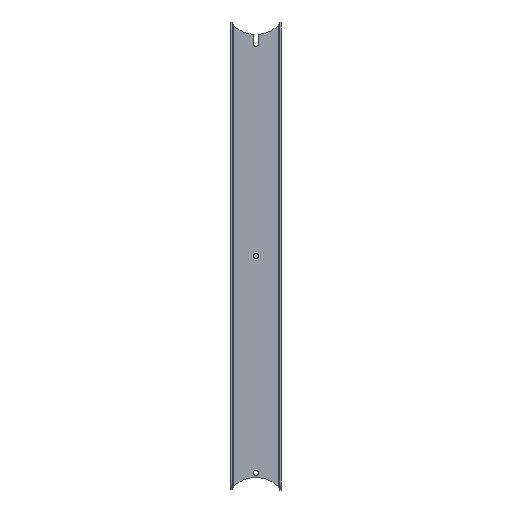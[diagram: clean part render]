
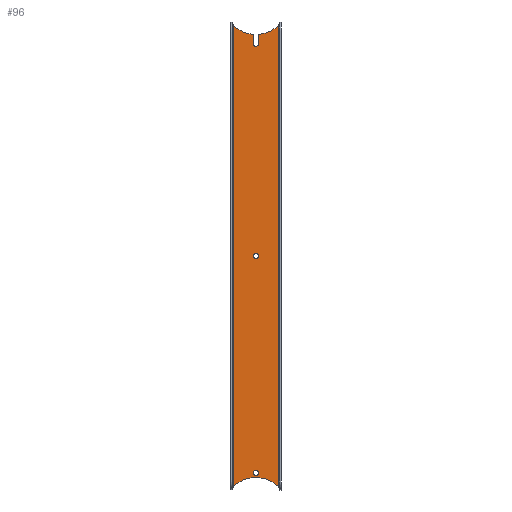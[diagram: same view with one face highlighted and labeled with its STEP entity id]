
A CAD part, left-side view. The second image highlights one B-rep face of the part: STEP entity #96.
In plain terms, the highlighted planar face has unit normal (-1, 0, 0).
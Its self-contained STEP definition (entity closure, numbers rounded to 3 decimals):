
#96 = ADVANCED_FACE( '', ( #206, #207, #208 ), #209, .T. );
#206 = FACE_BOUND( '', #371, .T. );
#207 = FACE_OUTER_BOUND( '', #372, .T. );
#208 = FACE_BOUND( '', #373, .T. );
#209 = PLANE( '', #374 );
#371 = EDGE_LOOP( '', ( #617 ) );
#372 = EDGE_LOOP( '', ( #618, #619, #620, #621, #622, #623, #624, #625 ) );
#373 = EDGE_LOOP( '', ( #626 ) );
#374 = AXIS2_PLACEMENT_3D( '', #627, #628, #629 );
#617 = ORIENTED_EDGE( '', *, *, #774, .T. );
#618 = ORIENTED_EDGE( '', *, *, #842, .F. );
#619 = ORIENTED_EDGE( '', *, *, #843, .F. );
#620 = ORIENTED_EDGE( '', *, *, #844, .F. );
#621 = ORIENTED_EDGE( '', *, *, #820, .F. );
#622 = ORIENTED_EDGE( '', *, *, #816, .F. );
#623 = ORIENTED_EDGE( '', *, *, #836, .F. );
#624 = ORIENTED_EDGE( '', *, *, #789, .F. );
#625 = ORIENTED_EDGE( '', *, *, #845, .F. );
#626 = ORIENTED_EDGE( '', *, *, #846, .T. );
#627 = CARTESIAN_POINT( '', ( -1.5, 25., 25. ) );
#628 = DIRECTION( '', ( -1., 0., 0. ) );
#629 = DIRECTION( '', ( 0., -1., 0. ) );
#774 = EDGE_CURVE( '', #905, #905, #906, .F. );
#789 = EDGE_CURVE( '', #930, #925, #932, .T. );
#816 = EDGE_CURVE( '', #937, #884, #971, .T. );
#820 = EDGE_CURVE( '', #884, #976, #977, .T. );
#836 = EDGE_CURVE( '', #925, #937, #999, .T. );
#842 = EDGE_CURVE( '', #1007, #1008, #1009, .F. );
#843 = EDGE_CURVE( '', #1010, #1007, #1011, .T. );
#844 = EDGE_CURVE( '', #976, #1010, #1012, .T. );
#845 = EDGE_CURVE( '', #1008, #930, #1013, .T. );
#846 = EDGE_CURVE( '', #1014, #1014, #1015, .F. );
#884 = VERTEX_POINT( '', #1057 );
#905 = VERTEX_POINT( '', #1101 );
#906 = CIRCLE( '', #1102, 2.75 );
#925 = VERTEX_POINT( '', #1137 );
#930 = VERTEX_POINT( '', #1144 );
#932 = LINE( '', #1147, #1148 );
#937 = VERTEX_POINT( '', #1163 );
#971 = LINE( '', #1253, #1254 );
#976 = VERTEX_POINT( '', #1265 );
#977 = CIRCLE( '', #1266, 35. );
#999 = CIRCLE( '', #1296, 35. );
#1007 = VERTEX_POINT( '', #1306 );
#1008 = VERTEX_POINT( '', #1307 );
#1009 = LINE( '', #1308, #1309 );
#1010 = VERTEX_POINT( '', #1310 );
#1011 = CIRCLE( '', #1311, 35. );
#1012 = LINE( '', #1312, #1313 );
#1013 = CIRCLE( '', #1314, 2.75 );
#1014 = VERTEX_POINT( '', #1315 );
#1015 = CIRCLE( '', #1316, 2.75 );
#1057 = CARTESIAN_POINT( '', ( -1.5, 0.33, 49.827 ) );
#1101 = CARTESIAN_POINT( '', ( -1.5, 22.25, 300. ) );
#1102 = AXIS2_PLACEMENT_3D( '', #1399, #1400, #1401 );
#1137 = CARTESIAN_POINT( '', ( -1.5, 22.25, 540.108 ) );
#1144 = CARTESIAN_POINT( '', ( -1.5, 22.25, 530. ) );
#1147 = CARTESIAN_POINT( '', ( -1.5, 22.25, 25. ) );
#1148 = VECTOR( '', #1411, 1000. );
#1163 = CARTESIAN_POINT( '', ( -1.5, 0.33, 550.173 ) );
#1253 = CARTESIAN_POINT( '', ( -1.5, 0.33, 550.173 ) );
#1254 = VECTOR( '', #1437, 1000. );
#1265 = CARTESIAN_POINT( '', ( -1.5, 49.33, 50.161 ) );
#1266 = AXIS2_PLACEMENT_3D( '', #1439, #1440, #1441 );
#1296 = AXIS2_PLACEMENT_3D( '', #1459, #1460, #1461 );
#1306 = CARTESIAN_POINT( '', ( -1.5, 27.75, 540.108 ) );
#1307 = CARTESIAN_POINT( '', ( -1.5, 27.75, 530. ) );
#1308 = CARTESIAN_POINT( '', ( -1.5, 27.75, 25. ) );
#1309 = VECTOR( '', #1467, 1000. );
#1310 = CARTESIAN_POINT( '', ( -1.5, 49.33, 549.839 ) );
#1311 = AXIS2_PLACEMENT_3D( '', #1468, #1469, #1470 );
#1312 = CARTESIAN_POINT( '', ( -1.5, 49.33, 50.161 ) );
#1313 = VECTOR( '', #1471, 1000. );
#1314 = AXIS2_PLACEMENT_3D( '', #1472, #1473, #1474 );
#1315 = CARTESIAN_POINT( '', ( -1.5, 22.25, 65. ) );
#1316 = AXIS2_PLACEMENT_3D( '', #1475, #1476, #1477 );
#1399 = CARTESIAN_POINT( '', ( -1.5, 25., 300. ) );
#1400 = DIRECTION( '', ( -1., 0., 0. ) );
#1401 = DIRECTION( '', ( 0., -1., 0. ) );
#1411 = DIRECTION( '', ( 0., 0., 1. ) );
#1437 = DIRECTION( '', ( 0., 0., -1. ) );
#1439 = CARTESIAN_POINT( '', ( -1.5, 25., 25. ) );
#1440 = DIRECTION( '', ( -1., 0., 0. ) );
#1441 = DIRECTION( '', ( 0., 1., 0. ) );
#1459 = CARTESIAN_POINT( '', ( -1.5, 25., 575. ) );
#1460 = DIRECTION( '', ( -1., 0., 0. ) );
#1461 = DIRECTION( '', ( 0., 1., 0. ) );
#1467 = DIRECTION( '', ( 0., 0., 1. ) );
#1468 = CARTESIAN_POINT( '', ( -1.5, 25., 575. ) );
#1469 = DIRECTION( '', ( -1., 0., 0. ) );
#1470 = DIRECTION( '', ( 0., 1., 0. ) );
#1471 = DIRECTION( '', ( 0., 0., 1. ) );
#1472 = CARTESIAN_POINT( '', ( -1.5, 25., 530. ) );
#1473 = DIRECTION( '', ( -1., 0., 0. ) );
#1474 = DIRECTION( '', ( 0., -1., 0. ) );
#1475 = CARTESIAN_POINT( '', ( -1.5, 25., 65. ) );
#1476 = DIRECTION( '', ( -1., 0., 0. ) );
#1477 = DIRECTION( '', ( 0., -1., 0. ) );
